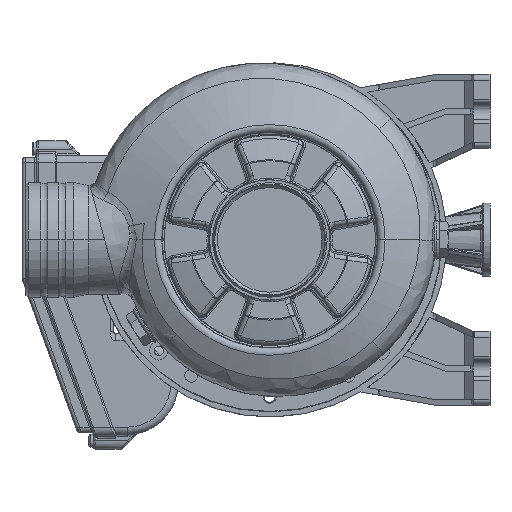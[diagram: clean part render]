
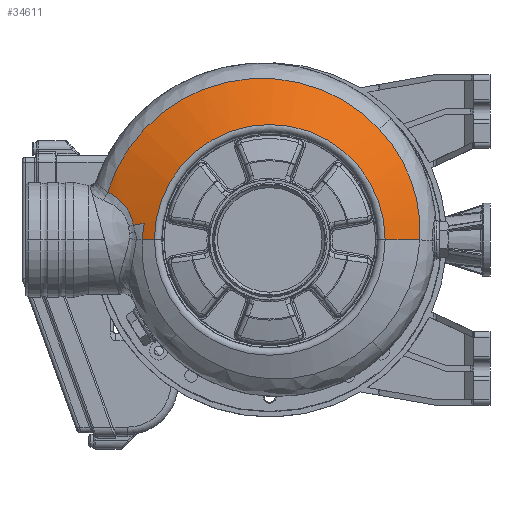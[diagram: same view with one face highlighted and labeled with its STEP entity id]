
A CAD part, left-side view. The second image highlights one B-rep face of the part: STEP entity #34611.
In plain terms, the highlighted spherical face has radius 172 mm.
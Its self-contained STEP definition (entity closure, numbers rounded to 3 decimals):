
#25202=CARTESIAN_POINT('',(0.,0.,36.093));
#25203=DIRECTION('',(0.,0.,-1.));
#25204=DIRECTION('',(0.,1.,0.));
#25205=AXIS2_PLACEMENT_3D('',#25202,#25203,#25204);
#25210=CARTESIAN_POINT('',(0.,0.,-124.));
#25211=DIRECTION('',(1.,0.,0.));
#25212=DIRECTION('',(0.,0.405,0.914));
#25213=AXIS2_PLACEMENT_3D('',#25210,#25211,#25212);
#25218=CARTESIAN_POINT('',(9.009,68.431,33.544));
#25219=CARTESIAN_POINT('',(8.266,68.578,33.522));
#25220=CARTESIAN_POINT('',(6.775,68.847,33.48));
#25221=CARTESIAN_POINT('',(4.526,69.175,33.417));
#25222=CARTESIAN_POINT('',(2.643,69.386,33.365));
#25223=CARTESIAN_POINT('',(1.134,69.517,33.323));
#25224=CARTESIAN_POINT('',(0.378,69.57,
33.302));
#25225=CARTESIAN_POINT('',(0.,69.594,
33.292));
#25230=CARTESIAN_POINT('',(9.009,68.431,33.544));
#25231=CARTESIAN_POINT('',(8.707,70.44,32.688));
#25232=CARTESIAN_POINT('',(8.356,72.427,31.799));
#25233=CARTESIAN_POINT('',(7.957,74.388,30.878));
#25238=CARTESIAN_POINT('',(7.957,74.388,30.878));
#25239=CARTESIAN_POINT('',(10.071,74.682,30.628));
#25240=CARTESIAN_POINT('',(14.185,75.867,29.757));
#25241=CARTESIAN_POINT('',(18.437,78.68,27.861));
#25242=CARTESIAN_POINT('',(21.255,81.382,26.042));
#25243=CARTESIAN_POINT('',(23.108,83.57,24.558));
#25244=CARTESIAN_POINT('',(24.422,85.507,23.235));
#25245=CARTESIAN_POINT('',(25.38,87.089,22.138));
#25246=CARTESIAN_POINT('',(25.789,87.907,21.573));
#25247=CARTESIAN_POINT('',(26.018,88.303,21.291));
#25252=CARTESIAN_POINT('',(26.018,88.303,21.291));
#25253=CARTESIAN_POINT('',(29.663,87.18,21.321));
#25254=CARTESIAN_POINT('',(36.812,84.458,21.395));
#25255=CARTESIAN_POINT('',(46.935,79.,21.547));
#25256=CARTESIAN_POINT('',(56.228,72.298,21.737));
#25257=CARTESIAN_POINT('',(64.596,64.424,21.962));
#25258=CARTESIAN_POINT('',(71.869,55.528,22.218));
#25259=CARTESIAN_POINT('',(77.927,45.75,22.5));
#25260=CARTESIAN_POINT('',(82.651,35.291,22.803));
#25261=CARTESIAN_POINT('',(85.978,24.305,23.123));
#25262=CARTESIAN_POINT('',(87.85,12.961,23.453));
#25263=CARTESIAN_POINT('',(88.229,1.46,23.789));
#25264=CARTESIAN_POINT('',(87.106,-9.991,
24.124));
#25265=CARTESIAN_POINT('',(84.51,-21.173,
24.451));
#25266=CARTESIAN_POINT('',(80.472,-31.944,
24.768));
#25267=CARTESIAN_POINT('',(75.076,-42.085,
25.066));
#25268=CARTESIAN_POINT('',(68.376,-51.473,
25.343));
#25269=CARTESIAN_POINT('',(63.161,-57.065,
25.509));
#25270=CARTESIAN_POINT('',(60.385,-59.678,
25.586));
#25275=CARTESIAN_POINT('',(60.385,-59.678,
25.586));
#25276=CARTESIAN_POINT('',(57.738,-62.171,
25.661));
#25277=CARTESIAN_POINT('',(52.092,-66.819,
25.819));
#25278=CARTESIAN_POINT('',(42.734,-72.619,
26.083));
#25279=CARTESIAN_POINT('',(32.595,-77.146,
26.37));
#25280=CARTESIAN_POINT('',(21.97,-80.25,
26.672));
#25281=CARTESIAN_POINT('',(11.026,-81.898,
26.983));
#25282=CARTESIAN_POINT('',(3.664,-82.005,
27.193));
#25283=CARTESIAN_POINT('',(0.,-81.811,
27.297));
#25288=CARTESIAN_POINT('',(0.,0.,-124.));
#25289=DIRECTION('',(-1.,0.,0.));
#25290=DIRECTION('',(0.,-0.476,0.88));
#25291=AXIS2_PLACEMENT_3D('',#25288,#25289,#25290);
#25320=CARTESIAN_POINT('',(0.,-81.811,
27.297));
#25443=CARTESIAN_POINT('',(7.957,74.388,30.878));
#25451=CARTESIAN_POINT('',(26.018,88.303,21.291));
#28193=VERTEX_POINT('',#25320);
#28194=VERTEX_POINT('',#25275);
#28197=VERTEX_POINT('',#25218);
#28198=VERTEX_POINT('',#25225);
#28238=VERTEX_POINT('',#25443);
#28240=VERTEX_POINT('',#25451);
#28318=CARTESIAN_POINT('',(0.,62.883,36.093));
#28319=CARTESIAN_POINT('',(0.,-62.883,36.093));
#28320=VERTEX_POINT('',#28318);
#28321=VERTEX_POINT('',#28319);
#34589=CARTESIAN_POINT('',(0.,0.,-124.));
#34590=DIRECTION('',(0.,0.,1.));
#34591=DIRECTION('',(0.,1.,0.));
#34592=AXIS2_PLACEMENT_3D('',#34589,#34590,#34591);
#34593=SPHERICAL_SURFACE('',#34592,172.);
#34595=ORIENTED_EDGE('',*,*,#34594,.F.);
#34597=ORIENTED_EDGE('',*,*,#34596,.F.);
#34599=ORIENTED_EDGE('',*,*,#34598,.F.);
#34601=ORIENTED_EDGE('',*,*,#34600,.T.);
#34603=ORIENTED_EDGE('',*,*,#34602,.T.);
#34605=ORIENTED_EDGE('',*,*,#34604,.T.);
#34606=ORIENTED_EDGE('',*,*,#34579,.T.);
#34608=ORIENTED_EDGE('',*,*,#34607,.T.);
#34609=EDGE_LOOP('',(#34595,#34597,#34599,#34601,#34603,#34605,#34606,#34608));
#34610=FACE_OUTER_BOUND('',#34609,.F.);
#25206=CIRCLE('',#25205,62.883);
#25214=CIRCLE('',#25213,172.);
#25226=B_SPLINE_CURVE_WITH_KNOTS('',3,(#25218,#25219,#25220,#25221,#25222,
#25223,#25224,#25225),.UNSPECIFIED.,.F.,.F.,(4,1,1,1,1,4),(0.,0.25,0.5,
0.75,0.875,1.),.UNSPECIFIED.);
#25234=B_SPLINE_CURVE_WITH_KNOTS('',3,(#25230,#25231,#25232,#25233),
.UNSPECIFIED.,.F.,.F.,(4,4),(0.,1.),.UNSPECIFIED.);
#25248=B_SPLINE_CURVE_WITH_KNOTS('',3,(#25238,#25239,#25240,#25241,#25242,
#25243,#25244,#25245,#25246,#25247),.UNSPECIFIED.,.F.,.F.,(4,1,1,1,1,1,1,4),(
0.,0.25,0.5,0.625,0.75,0.875,0.938,1.),.UNSPECIFIED.);
#25271=B_SPLINE_CURVE_WITH_KNOTS('',3,(#25252,#25253,#25254,#25255,#25256,
#25257,#25258,#25259,#25260,#25261,#25262,#25263,#25264,#25265,#25266,#25267,
#25268,#25269,#25270),.UNSPECIFIED.,.F.,.F.,(4,1,1,1,1,1,1,1,1,1,1,1,1,1,1,1,4),
(0.,0.063,0.125,0.188,0.25,0.313,0.375,0.438,0.5,0.563,
0.625,0.688,0.75,0.813,0.875,0.938,1.),.UNSPECIFIED.);
#25284=B_SPLINE_CURVE_WITH_KNOTS('',3,(#25275,#25276,#25277,#25278,#25279,
#25280,#25281,#25282,#25283),.UNSPECIFIED.,.F.,.F.,(4,1,1,1,1,1,4),(0.,
0.167,0.333,0.5,0.667,0.833,
1.),.UNSPECIFIED.);
#25292=CIRCLE('',#25291,172.);
#34579=EDGE_CURVE('',#28194,#28193,#25284,.T.);
#34594=EDGE_CURVE('',#28320,#28321,#25206,.T.);
#34596=EDGE_CURVE('',#28198,#28320,#25214,.T.);
#34598=EDGE_CURVE('',#28197,#28198,#25226,.T.);
#34600=EDGE_CURVE('',#28197,#28238,#25234,.T.);
#34602=EDGE_CURVE('',#28238,#28240,#25248,.T.);
#34604=EDGE_CURVE('',#28240,#28194,#25271,.T.);
#34607=EDGE_CURVE('',#28193,#28321,#25292,.T.);
#34611=ADVANCED_FACE('',(#34610),#34593,.T.);
